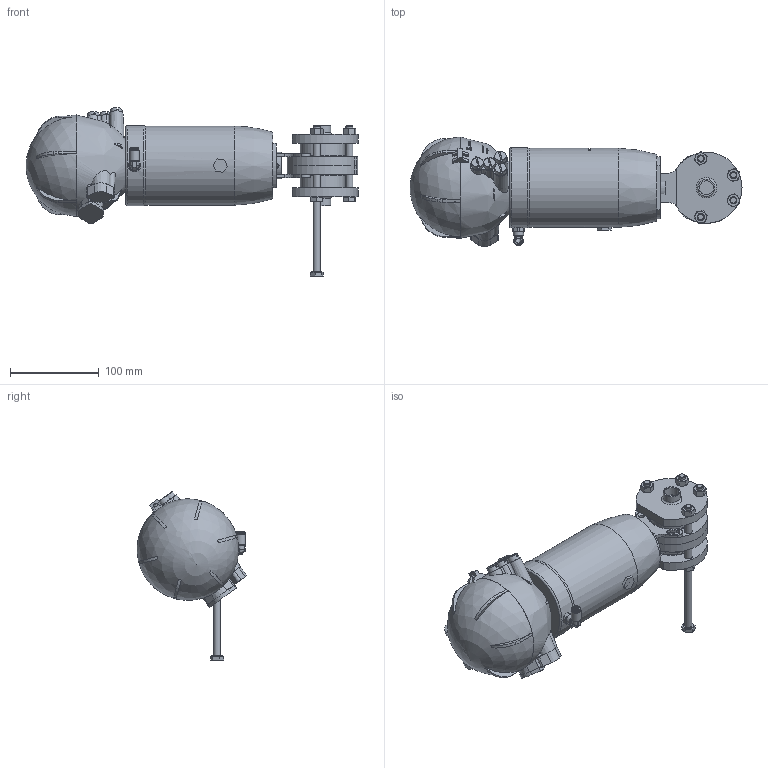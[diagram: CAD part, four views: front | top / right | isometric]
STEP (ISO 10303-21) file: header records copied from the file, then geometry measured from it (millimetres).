
FILE_DESCRIPTION(/* description */ ('ZVF V.FARF.DN19.05X1.65 WAF4 MACH83 SE NC 316 VIT'),/* implementation_level */ '2;1');
FILE_NAME(/* name */ 'C:\_DED_PWS\MARZ-M\DB\B\EAA\BEAAD9034BVBA-00^SAGOMA.step',/* time_stamp */ '2021-07-08T15:16:39+02:00',/* author */ (''),/* organization */ (''),/* preprocessor_version */ 'ST-DEVELOPER v18.1',/* originating_system */ 'Autodesk Inventor 2020',/* authorisation */ '');
FILE_SCHEMA (('CONFIG_CONTROL_DESIGN'));
Length unit declared in the file: millimetre
Products named in the file (8): BEAAD9034BVBA; MEZZO-COR-DN025-WAFER-4; UNI 5588 - M8; UNI 5739 - M8 x 80; TPM022034BBA; 3DAAJGIOAA007; Supporto-farf-DN25-65-; 3DAAZVFAA052
Assembly tree (16 placements, depth 2):
  BEAAD9034BVBA
    MEZZO-COR-DN025-WAFER-4  x2
    UNI 5588 - M8  x4
    UNI 5739 - M8 x 80  x5
    TPM022034BBA  x2
    3DAAJGIOAA007
    Supporto-farf-DN25-65-
    3DAAZVFAA052
Bounding box: 373.46 x 123.38 x 190.27 mm (x, y, z)
Volume: 2150756.7 mm3; surface area: 212154.4 mm2
Topology: 16 solids, 16 shells, 1187 faces, 3221 edges, 2132 vertices
Faces by surface type: plane 812, cylinder 153, cone 148, bspline 56, torus 17, sphere 1
Full cylindrical faces by diameter (mm): 2 x1, 3 x5, 4 x1, 4.917 x11, 6 x2, 6.2 x4, 6.647 x4, 7 x5, 7.8 x1, 8 x5, 8.3 x1, 8.5 x12, 8.566 x1, 10 x2, 10.376 x1, 11 x1, 11.5 x1, 11.63 x5, 13 x4, 15.75 x2, 18 x1, 18.5 x2, 19.05 x2, 24.5 x1, 25 x1, 30 x1, 30.3 x1, 50 x2, 82.8 x1, 83 x1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
Entity records: 36525 total; most frequent: CARTESIAN_POINT 8702, DIRECTION 5881, ORIENTED_EDGE 5606, EDGE_CURVE 2803, AXIS2_PLACEMENT_3D 2408, VERTEX_POINT 1878, EDGE_LOOP 1131, LINE 1065
